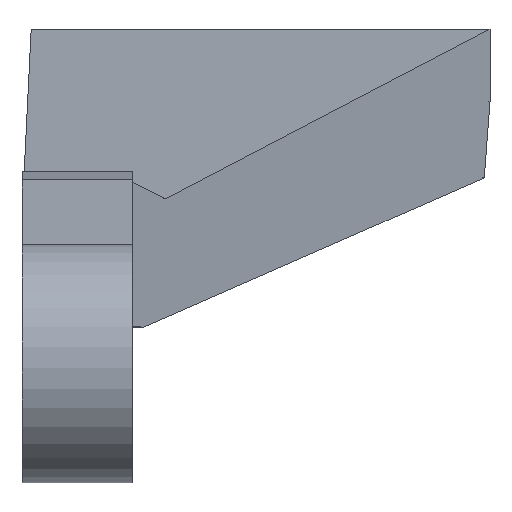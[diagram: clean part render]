
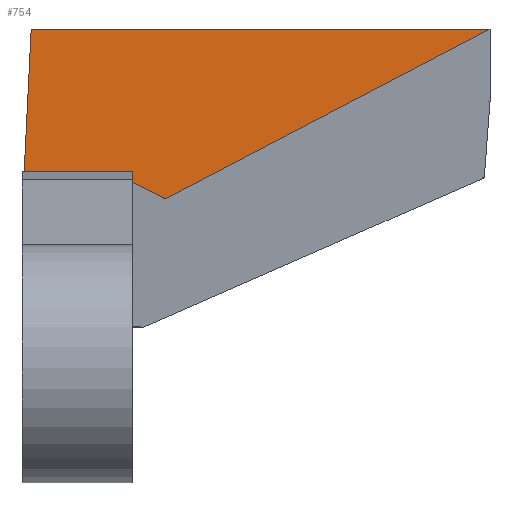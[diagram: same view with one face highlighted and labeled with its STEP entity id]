
A CAD part, top view. The second image highlights one B-rep face of the part: STEP entity #754.
In plain terms, the highlighted planar face has unit normal (0, 0.952, 0.305).
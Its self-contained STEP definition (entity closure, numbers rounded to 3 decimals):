
#44 = PLANE('',#45);
#45 = AXIS2_PLACEMENT_3D('',#46,#47,#48);
#46 = CARTESIAN_POINT('',(-26.,-40.,-24.));
#47 = DIRECTION('',(1.,-0.,0.016));
#48 = DIRECTION('',(-0.016,0.,1.));
#100 = PLANE('',#101);
#101 = AXIS2_PLACEMENT_3D('',#102,#103,#104);
#102 = CARTESIAN_POINT('',(25.,-40.,-88.));
#103 = DIRECTION('',(-0.854,0.,-0.52));
#104 = DIRECTION('',(0.52,0.,-0.854));
#194 = VERTEX_POINT('',#195);
#195 = CARTESIAN_POINT('',(-25.906,18.,-30.));
#209 = PLANE('',#210);
#210 = AXIS2_PLACEMENT_3D('',#211,#212,#213);
#211 = CARTESIAN_POINT('',(-26.,21.,-20.));
#212 = DIRECTION('',(-0.,-0.958,0.287));
#213 = DIRECTION('',(0.,0.287,0.958));
#221 = EDGE_CURVE('',#194,#222,#224,.T.);
#222 = VERTEX_POINT('',#223);
#223 = CARTESIAN_POINT('',(-25.,36.595,-88.));
#224 = SURFACE_CURVE('',#225,(#229,#236),.PCURVE_S1.);
#225 = LINE('',#226,#227);
#226 = CARTESIAN_POINT('',(-26.08,14.425,
    -18.85));
#227 = VECTOR('',#228,1.);
#228 = DIRECTION('',(0.015,0.305,-0.952));
#229 = PCURVE('',#44,#230);
#230 = DEFINITIONAL_REPRESENTATION('',(#231),#235);
#231 = LINE('',#232,#233);
#232 = CARTESIAN_POINT('',(5.151,-54.425));
#233 = VECTOR('',#234,1.);
#234 = DIRECTION('',(-0.952,-0.305));
#235 = ( GEOMETRIC_REPRESENTATION_CONTEXT(2) 
PARAMETRIC_REPRESENTATION_CONTEXT() REPRESENTATION_CONTEXT('2D SPACE',''
  ) );
#236 = PCURVE('',#237,#242);
#237 = PLANE('',#238);
#238 = AXIS2_PLACEMENT_3D('',#239,#240,#241);
#239 = CARTESIAN_POINT('',(-26.,18.,-30.));
#240 = DIRECTION('',(-0.,-0.952,-0.305));
#241 = DIRECTION('',(-0.,-0.305,0.952));
#242 = DEFINITIONAL_REPRESENTATION('',(#243),#247);
#243 = LINE('',#244,#245);
#244 = CARTESIAN_POINT('',(11.709,0.08));
#245 = VECTOR('',#246,1.);
#246 = DIRECTION('',(-1.,-0.015));
#247 = ( GEOMETRIC_REPRESENTATION_CONTEXT(2) 
PARAMETRIC_REPRESENTATION_CONTEXT() REPRESENTATION_CONTEXT('2D SPACE',''
  ) );
#265 = PLANE('',#266);
#266 = AXIS2_PLACEMENT_3D('',#267,#268,#269);
#267 = CARTESIAN_POINT('',(-26.,36.595,-88.));
#268 = DIRECTION('',(-0.,-0.,1.));
#269 = DIRECTION('',(0.,1.,0.));
#432 = VERTEX_POINT('',#433);
#433 = CARTESIAN_POINT('',(25.,36.595,-88.));
#454 = EDGE_CURVE('',#432,#455,#457,.T.);
#455 = VERTEX_POINT('',#456);
#456 = CARTESIAN_POINT('',(-10.344,18.,-30.));
#457 = SURFACE_CURVE('',#458,(#462,#469),.PCURVE_S1.);
#458 = LINE('',#459,#460);
#459 = CARTESIAN_POINT('',(0.281,23.59,-47.435
    ));
#460 = VECTOR('',#461,1.);
#461 = DIRECTION('',(-0.502,-0.264,0.824));
#462 = PCURVE('',#100,#463);
#463 = DEFINITIONAL_REPRESENTATION('',(#464),#468);
#464 = LINE('',#465,#466);
#465 = CARTESIAN_POINT('',(-47.504,-63.59));
#466 = VECTOR('',#467,1.);
#467 = DIRECTION('',(-0.965,0.264));
#468 = ( GEOMETRIC_REPRESENTATION_CONTEXT(2) 
PARAMETRIC_REPRESENTATION_CONTEXT() REPRESENTATION_CONTEXT('2D SPACE',''
  ) );
#469 = PCURVE('',#237,#470);
#470 = DEFINITIONAL_REPRESENTATION('',(#471),#475);
#471 = LINE('',#472,#473);
#472 = CARTESIAN_POINT('',(-18.309,-26.281));
#473 = VECTOR('',#474,1.);
#474 = DIRECTION('',(0.865,0.502));
#475 = ( GEOMETRIC_REPRESENTATION_CONTEXT(2) 
PARAMETRIC_REPRESENTATION_CONTEXT() REPRESENTATION_CONTEXT('2D SPACE',''
  ) );
#660 = EDGE_CURVE('',#222,#432,#661,.T.);
#661 = SURFACE_CURVE('',#662,(#666,#673),.PCURVE_S1.);
#662 = LINE('',#663,#664);
#663 = CARTESIAN_POINT('',(-26.,36.595,-88.));
#664 = VECTOR('',#665,1.);
#665 = DIRECTION('',(1.,-0.,-0.));
#666 = PCURVE('',#265,#667);
#667 = DEFINITIONAL_REPRESENTATION('',(#668),#672);
#668 = LINE('',#669,#670);
#669 = CARTESIAN_POINT('',(-0.,-0.));
#670 = VECTOR('',#671,1.);
#671 = DIRECTION('',(-0.,-1.));
#672 = ( GEOMETRIC_REPRESENTATION_CONTEXT(2) 
PARAMETRIC_REPRESENTATION_CONTEXT() REPRESENTATION_CONTEXT('2D SPACE',''
  ) );
#673 = PCURVE('',#237,#674);
#674 = DEFINITIONAL_REPRESENTATION('',(#675),#679);
#675 = LINE('',#676,#677);
#676 = CARTESIAN_POINT('',(-60.908,0.));
#677 = VECTOR('',#678,1.);
#678 = DIRECTION('',(-0.,-1.));
#679 = ( GEOMETRIC_REPRESENTATION_CONTEXT(2) 
PARAMETRIC_REPRESENTATION_CONTEXT() REPRESENTATION_CONTEXT('2D SPACE',''
  ) );
#754 = ADVANCED_FACE('',(#755),#237,.F.);
#755 = FACE_BOUND('',#756,.T.);
#756 = EDGE_LOOP('',(#757,#758,#779,#780));
#757 = ORIENTED_EDGE('',*,*,#221,.F.);
#758 = ORIENTED_EDGE('',*,*,#759,.T.);
#759 = EDGE_CURVE('',#194,#455,#760,.T.);
#760 = SURFACE_CURVE('',#761,(#765,#772),.PCURVE_S1.);
#761 = LINE('',#762,#763);
#762 = CARTESIAN_POINT('',(-26.,18.,-30.));
#763 = VECTOR('',#764,1.);
#764 = DIRECTION('',(1.,-0.,-0.));
#765 = PCURVE('',#237,#766);
#766 = DEFINITIONAL_REPRESENTATION('',(#767),#771);
#767 = LINE('',#768,#769);
#768 = CARTESIAN_POINT('',(-0.,-0.));
#769 = VECTOR('',#770,1.);
#770 = DIRECTION('',(-0.,-1.));
#771 = ( GEOMETRIC_REPRESENTATION_CONTEXT(2) 
PARAMETRIC_REPRESENTATION_CONTEXT() REPRESENTATION_CONTEXT('2D SPACE',''
  ) );
#772 = PCURVE('',#209,#773);
#773 = DEFINITIONAL_REPRESENTATION('',(#774),#778);
#774 = LINE('',#775,#776);
#775 = CARTESIAN_POINT('',(-10.44,0.));
#776 = VECTOR('',#777,1.);
#777 = DIRECTION('',(-0.,-1.));
#778 = ( GEOMETRIC_REPRESENTATION_CONTEXT(2) 
PARAMETRIC_REPRESENTATION_CONTEXT() REPRESENTATION_CONTEXT('2D SPACE',''
  ) );
#779 = ORIENTED_EDGE('',*,*,#454,.F.);
#780 = ORIENTED_EDGE('',*,*,#660,.F.);
